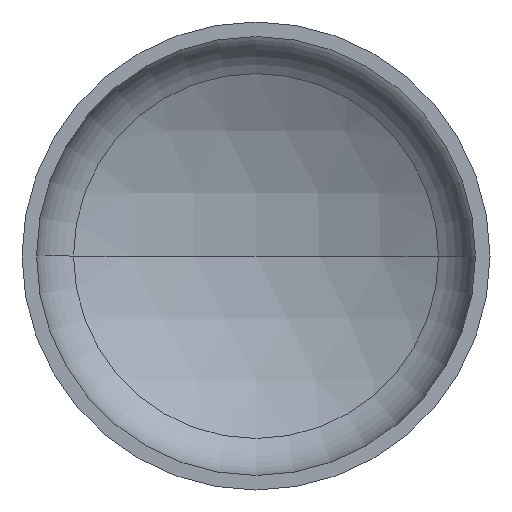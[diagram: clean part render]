
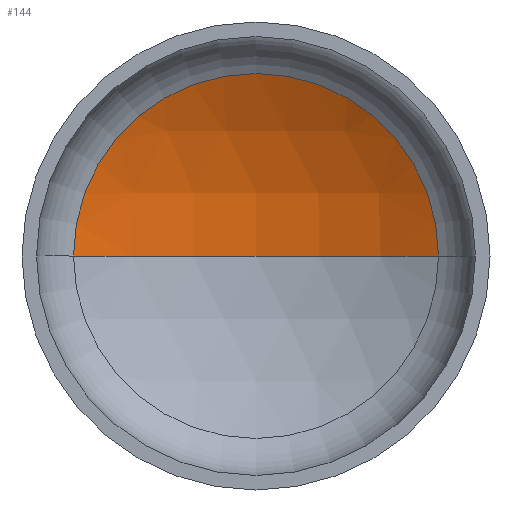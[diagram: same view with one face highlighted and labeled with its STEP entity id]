
A CAD part, front view. The second image highlights one B-rep face of the part: STEP entity #144.
In plain terms, the highlighted spherical face has radius 2880 mm.
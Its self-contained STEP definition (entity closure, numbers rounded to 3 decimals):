
#15 = AXIS2_PLACEMENT_3D ( 'NONE', #322, #203, #272 ) ;
#23 = VERTEX_POINT ( 'NONE', #220 ) ;
#27 = AXIS2_PLACEMENT_3D ( 'NONE', #407, #277, #69 ) ;
#29 = AXIS2_PLACEMENT_3D ( 'NONE', #228, #391, #214 ) ;
#33 = ORIENTED_EDGE ( 'NONE', *, *, #345, .T. ) ;
#49 = VERTEX_POINT ( 'NONE', #331 ) ;
#67 = CIRCLE ( 'NONE', #29, 2880. ) ;
#69 = DIRECTION ( 'NONE',  ( 1., 0., 0. ) ) ;
#72 = ORIENTED_EDGE ( 'NONE', *, *, #357, .T. ) ;
#79 = AXIS2_PLACEMENT_3D ( 'NONE', #289, #344, #311 ) ;
#87 = EDGE_LOOP ( 'NONE', ( #93, #33, #72 ) ) ;
#93 = ORIENTED_EDGE ( 'NONE', *, *, #351, .F. ) ;
#144 = ADVANCED_FACE ( 'NONE', ( #350 ), #236, .F. ) ;
#203 = DIRECTION ( 'NONE',  ( 0., -1., 0. ) ) ;
#214 = DIRECTION ( 'NONE',  ( -1., 0., 0. ) ) ;
#220 = CARTESIAN_POINT ( 'NONE',  ( 0., 924.745, 0. ) ) ;
#228 = CARTESIAN_POINT ( 'NONE',  ( 0., -1955.255, 0. ) ) ;
#236 = SPHERICAL_SURFACE ( 'NONE', #79, 2880. ) ;
#263 = CIRCLE ( 'NONE', #27, 2880. ) ;
#265 = CARTESIAN_POINT ( 'NONE',  ( -1403.458, 559.642, 0. ) ) ;
#272 = DIRECTION ( 'NONE',  ( 1., 0., 0. ) ) ;
#277 = DIRECTION ( 'NONE',  ( 0., 0., 1. ) ) ;
#289 = CARTESIAN_POINT ( 'NONE',  ( 0., -1955.255, 0. ) ) ;
#311 = DIRECTION ( 'NONE',  ( -1., 0., 0. ) ) ;
#314 = CIRCLE ( 'NONE', #15, 1403.458 ) ;
#315 = VERTEX_POINT ( 'NONE', #265 ) ;
#322 = CARTESIAN_POINT ( 'NONE',  ( 0., 559.642, 0. ) ) ;
#331 = CARTESIAN_POINT ( 'NONE',  ( 1403.458, 559.642, 0. ) ) ;
#344 = DIRECTION ( 'NONE',  ( 0., 0., -1. ) ) ;
#345 = EDGE_CURVE ( 'NONE', #23, #49, #67, .T. ) ;
#350 = FACE_OUTER_BOUND ( 'NONE', #87, .T. ) ;
#351 = EDGE_CURVE ( 'NONE', #23, #315, #263, .T. ) ;
#357 = EDGE_CURVE ( 'NONE', #49, #315, #314, .T. ) ;
#391 = DIRECTION ( 'NONE',  ( 0., 0., -1. ) ) ;
#407 = CARTESIAN_POINT ( 'NONE',  ( 0., -1955.255, 0. ) ) ;
